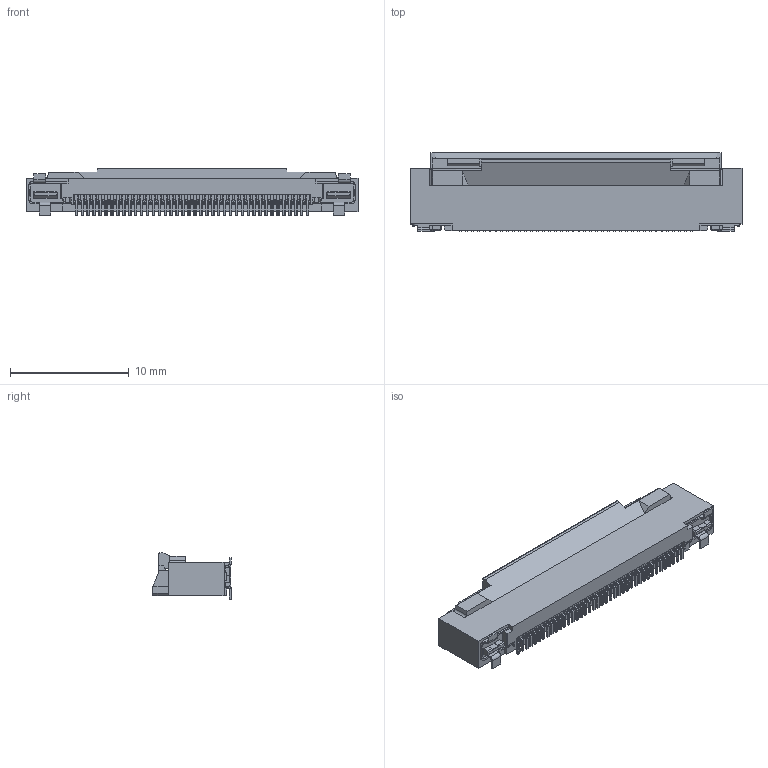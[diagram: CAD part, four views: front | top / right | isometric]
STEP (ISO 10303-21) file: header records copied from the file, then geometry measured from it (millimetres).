
FILE_DESCRIPTION (( 'STEP AP203' ), '1' );
FILE_NAME ('20799-040E-01 STEP R6 ALL.STEP', '2019-03-28T07:33:14', ( '' ), ( '' ), 'SwSTEP 2.0', 'SolidWorks 2017', '' );
FILE_SCHEMA (( 'CONFIG_CONTROL_DESIGN' ));
Length unit declared in the file: millimetre
Products named in the file (1): 20799-040E-01 STEP R6 ALL
Bounding box: 28 x 6.6 x 3.9 mm (x, y, z)
Volume: 457.4 mm3; surface area: 665 mm2
Topology: 1 solids, 1 shells, 1179 faces, 3262 edges, 2088 vertices
Faces by surface type: plane 984, cylinder 115, cone 80
Entity records: 36839 total; most frequent: CARTESIAN_POINT 6566, ORIENTED_EDGE 6524, DIRECTION 5916, EDGE_CURVE 3262, VECTOR 2944, LINE 2944, VERTEX_POINT 2088, AXIS2_PLACEMENT_3D 1486
